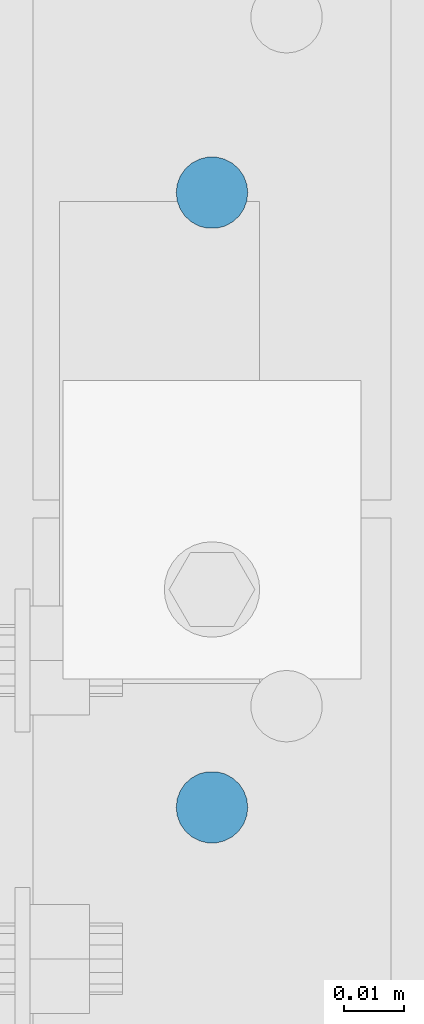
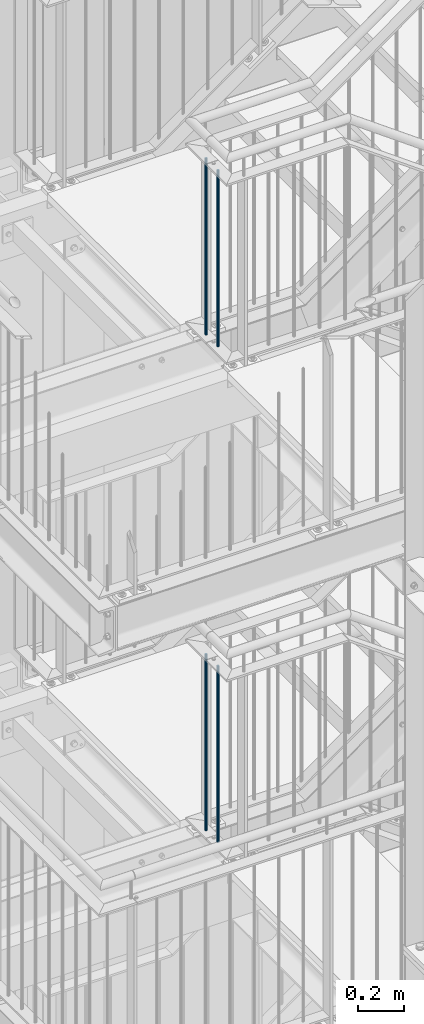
# One storey, part 23 of 821: 4 columns.
"""IFC2X3 building model written with IfcOpenShell, lengths in millimetres."""

import ifcopenshell
import ifcopenshell.guid

model = None  # the IFC model being written
_history = None  # IfcOwnerHistory: only IFC2X3 demands one
_inside = {}  # id of a spatial element -> (the spatial element, [elements in it])
_under = {}  # id of a project, library or spatial element -> (it, [spatial elements below it])
_declared = {}  # id of a project -> (the project, [libraries it declares])
_typed = {}  # id of a type object -> (the type object, [elements of that type])
_made_of = {}  # id of a material, layer set ... -> (it, [elements and type objects made of it])


def new_model(schema):
    """Start an empty IFC model of exactly this schema.

    Asked for "IFC4X3", IfcOpenShell would pick the latest addendum, in which some entities
    have other attributes; the version numbers below select the first issue.
    IFC2X3 requires an IfcOwnerHistory on every rooted entity: one is made here for all.
    """
    global model, _history
    if schema == "IFC4X3":
        model = ifcopenshell.file(schema_version=(4, 3, 0, 0))
    else:
        model = ifcopenshell.file(schema=schema)
    _inside.clear()
    _under.clear()
    _declared.clear()
    _typed.clear()
    _made_of.clear()
    _history = None
    if model.schema == "IFC2X3":
        org = make("IfcOrganization", Name="unknown")
        user = make(
            "IfcPersonAndOrganization",
            ThePerson=make("IfcPerson", FamilyName="unknown"),
            TheOrganization=org,
        )
        app = make(
            "IfcApplication",
            ApplicationDeveloper=org,
            Version="unknown",
            ApplicationFullName="unknown",
            ApplicationIdentifier="unknown",
        )
        _history = make(
            "IfcOwnerHistory",
            OwningUser=user,
            OwningApplication=app,
            ChangeAction="ADDED",
            CreationDate=0,
        )
    return model


def make(cls, **values):
    """One entity of the class cls with the attributes given. An attribute that is None is left unset."""
    return model.create_entity(
        cls, **{name: value for name, value in values.items() if value is not None}
    )


def entity(cls, *values):
    """Any entity or typed value of the class cls, its attributes in the order of the schema. None: left unset."""
    e = model.create_entity(cls)
    for i, value in enumerate(values):
        if value is not None:
            e[i] = value
    return e


def rooted(cls, **values):
    """An entity with a GlobalId (a new one), such as an element, a storey or a relation."""
    return make(cls, GlobalId=ifcopenshell.guid.new(), OwnerHistory=_history, **values)


def si_unit(unit_type, name, prefix=None):
    """IfcSIUnit, for example si_unit("LENGTHUNIT", "METRE", prefix="MILLI")."""
    return make("IfcSIUnit", UnitType=unit_type, Prefix=prefix, Name=name)


def converted_unit(unit_type, name, factor, base, dimensions=None, offset=None):
    """IfcConversionBasedUnit, such as the inch: factor (a typed value) times the base unit."""
    return make(
        "IfcConversionBasedUnit"
        if offset is None
        else "IfcConversionBasedUnitWithOffset",
        ConversionOffset=offset,
        Dimensions=None
        if dimensions is None
        else entity("IfcDimensionalExponents", *dimensions),
        UnitType=unit_type,
        Name=name,
        ConversionFactor=make(
            "IfcMeasureWithUnit", ValueComponent=factor, UnitComponent=base
        ),
    )


def assignment(units):
    """IfcUnitAssignment: the units of a project."""
    return None if units is None else make("IfcUnitAssignment", Units=units)


def point(xyz):
    """IfcCartesianPoint."""
    return None if xyz is None else make("IfcCartesianPoint", Coordinates=xyz)


def direction(xyz):
    """IfcDirection."""
    return None if xyz is None else make("IfcDirection", DirectionRatios=xyz)


def frame(location, z_axis=None, x_axis=None):
    """IfcAxis2Placement3D, a coordinate frame: its origin and axes. An axis left out is left unset."""
    return make(
        "IfcAxis2Placement3D",
        Location=point(location),
        Axis=direction(z_axis),
        RefDirection=direction(x_axis),
    )


def frame_2d(location, x_axis=None):
    """IfcAxis2Placement2D, a coordinate frame in the plane: its origin and x axis."""
    return make(
        "IfcAxis2Placement2D", Location=point(location), RefDirection=direction(x_axis)
    )


def origin():
    """The frame at (0, 0, 0) with its axes left unset."""
    return frame((0.0, 0.0, 0.0))


def origin_with_axes():
    """The frame at (0, 0, 0) with the z axis (0, 0, 1) and the x axis (1, 0, 0) written out."""
    return frame((0.0, 0.0, 0.0), z_axis=(0.0, 0.0, 1.0), x_axis=(1.0, 0.0, 0.0))


def origin_2d():
    """The frame at (0, 0) in the plane with its x axis left unset."""
    return frame_2d((0.0, 0.0))


def place(relative_to, where):
    """IfcLocalPlacement: puts the frame where relative to a parent placement (None: the world)."""
    return make(
        "IfcLocalPlacement", PlacementRelTo=relative_to, RelativePlacement=where
    )


def context(
    kind, dimensions, precision=None, world=None, true_north=None, identifier=None
):
    """IfcGeometricRepresentationContext, for example the 3D "Model" context."""
    return make(
        "IfcGeometricRepresentationContext",
        ContextIdentifier=identifier,
        ContextType=kind,
        CoordinateSpaceDimension=dimensions,
        Precision=precision,
        WorldCoordinateSystem=world,
        TrueNorth=true_north,
    )


def project(units=None, contexts=None):
    """IfcProject with its units and contexts."""
    return rooted(
        "IfcProject",
        Name="project",
        RepresentationContexts=contexts,
        UnitsInContext=assignment(units),
    )


def spatial(cls, under=None, at=None, **own):
    """A site, building, storey or space (cls), placed at a placement, below another one or the project."""
    s = rooted(cls, ObjectPlacement=at, **own)
    if under is not None:
        _under.setdefault(under.id(), (under, []))[1].append(s)
    return s


def profile(cls, at=None, kind="AREA", **sizes):
    """A parametric profile (cls). Its sizes go by their IFC names, for example OverallWidth=200.0."""
    return make(cls, ProfileType=kind, Position=at, **sizes)


def circle(**sizes):
    """IfcCircleProfileDef."""
    return profile("IfcCircleProfileDef", **sizes)


def extrude(swept, where, along, depth):
    """IfcExtrudedAreaSolid: the profile swept, set in the frame where, extruded along a direction by depth."""
    return make(
        "IfcExtrudedAreaSolid",
        SweptArea=swept,
        Position=where,
        ExtrudedDirection=direction(along),
        Depth=depth,
    )


def shape(context_of_items, identifier, shape_type, items):
    """IfcShapeRepresentation: the items that make up one representation, for example the "Body"."""
    return make(
        "IfcShapeRepresentation",
        ContextOfItems=context_of_items,
        RepresentationIdentifier=identifier,
        RepresentationType=shape_type,
        Items=items,
    )


def material(Name=None, Category=None):
    """IfcMaterial."""
    return make("IfcMaterial", Name=Name, Category=Category)


def made_of(thing, what):
    """Note that an element or type object is made of a material, layer set ...; save() writes the relation."""
    if what is not None:
        _made_of.setdefault(what.id(), (what, []))[1].append(thing)
    return thing


def element(
    cls,
    number,
    at=None,
    inside=None,
    cuts=None,
    type_object=None,
    material=None,
    context=None,
    identifier="Body",
    shape_type=None,
    held_by="IfcProductDefinitionShape",
    body=None,
    shapes=None,
    **own,
):
    """One element of the class cls, such as IfcWall. Its Tag is "e" and its number.

    at: its placement. inside: the storey or other place that contains it. cuts: it is an
    opening in that element (IfcRelVoidsElement). A single representation is given by context,
    identifier, shape_type and body (its items); several are given by shapes. held_by: the class
    of the entity that holds the representations. save() writes the other relations.
    """
    e = rooted(cls, Tag="e%d" % number, ObjectPlacement=at, **own)
    if body is not None:
        shapes = [shape(context, identifier, shape_type, body)]
    if shapes is not None:
        e.Representation = make(held_by, Representations=shapes)
    if inside is not None:
        _inside.setdefault(inside.id(), (inside, []))[1].append(e)
    if cuts is not None:
        rooted(
            "IfcRelVoidsElement", RelatingBuildingElement=cuts, RelatedOpeningElement=e
        )
    if type_object is not None:
        _typed.setdefault(type_object.id(), (type_object, []))[1].append(e)
    return made_of(e, material)


def aggregate(whole, parts):
    """IfcRelAggregates: a whole, such as a stair, and the parts it consists of."""
    return rooted("IfcRelAggregates", RelatingObject=whole, RelatedObjects=parts)


def save(model, path):
    """Write the relations noted so far, then the file.

    IfcRelAggregates (storeys below a building ...), IfcRelContainedInSpatialStructure (elements
    in a storey), IfcRelDefinesByType, IfcRelAssociatesMaterial and IfcRelDeclares: one each for
    every whole, place, type object, material and project.
    """
    for whole, parts in _under.values():
        aggregate(whole, parts)
    for where, things in _inside.values():
        rooted(
            "IfcRelContainedInSpatialStructure",
            RelatedElements=things,
            RelatingStructure=where,
        )
    for kind, things in _typed.values():
        rooted("IfcRelDefinesByType", RelatedObjects=things, RelatingType=kind)
    for what, things in _made_of.values():
        rooted("IfcRelAssociatesMaterial", RelatedObjects=things, RelatingMaterial=what)
    for by, libraries in _declared.values():
        rooted("IfcRelDeclares", RelatingContext=by, RelatedDefinitions=libraries)
    model.write(path)


model = new_model("IFC2X3")

# Units and contexts
model_context = context("Model", 3, precision=1e-09, world=origin_with_axes())
ifc_project = project(units=[si_unit("LENGTHUNIT", "METRE", prefix="MILLI"), si_unit("AREAUNIT", "SQUARE_METRE"), si_unit("VOLUMEUNIT", "CUBIC_METRE"), converted_unit("PLANEANGLEUNIT", "DEGREE", entity("IfcPlaneAngleMeasure", 0.01745329), si_unit("PLANEANGLEUNIT", "RADIAN"), dimensions=[0, 0, 0, 0, 0, 0, 0])], contexts=[model_context])

# Site, building, storey
site_placement = place(None, origin_with_axes())
site = spatial("IfcSite", under=ifc_project, at=site_placement, Name="Cnopf'sche Kinderklinik", CompositionType="ELEMENT")
building_placement = place(site_placement, origin_with_axes())
building = spatial("IfcBuilding", under=site, at=building_placement, Name="Struktur 1", CompositionType="ELEMENT")
storey_placement = place(building_placement, origin_with_axes())
storey = spatial("IfcBuildingStorey", under=building, at=storey_placement, Name="Default Storey", CompositionType="ELEMENT", Elevation=0.0)

# Columns
ifc_material = material(Name="S235JR")
for number, where, z_axis, x_axis, name in (
    (1, (4644.215455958, 5890.236971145, 13587.798924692), (0.0, 0.0, 1.0), (-1.0, 0.0, 0.0), "Railing_Picket_Stair#0"),
    (2, (4644.215455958, 5993.236971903, 13587.798924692), (0.0, 0.0, 1.0), (-1.0, 0.0, 0.0), "Railing_Picket_Stair#0"),
    (3, (4644.215455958, 5890.236971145, 16222.798924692), (0.0, 0.0, 1.0), (-1.0, 0.0, 0.0), "Railing_Picket_Stair#0"),
    (4, (4644.215455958, 5993.236971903, 16222.798924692), (0.0, 0.0, 1.0), (-1.0, 0.0, 0.0), "Railing_Picket_Stair#0"),
):
    element("IfcColumn", number, at=place(None, frame(where, z_axis=z_axis, x_axis=x_axis)), inside=storey, material=ifc_material, Name=name, ObjectType="Railing_Picket_Stair#0", context=model_context, shape_type="SweptSolid", body=[
        extrude(circle(Radius=6.0, at=origin_2d()), origin(), (0.0, 0.0, -1.0), 938.8),
    ])

save(model, "model.ifc")
